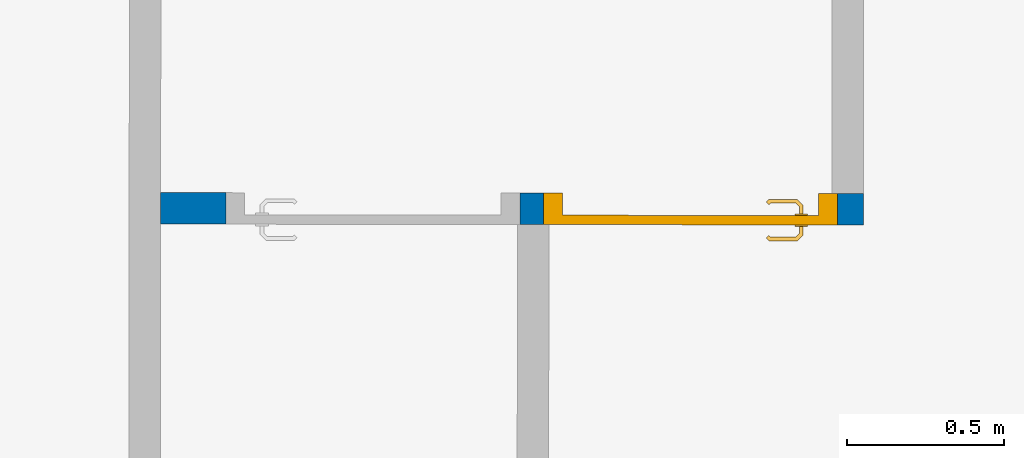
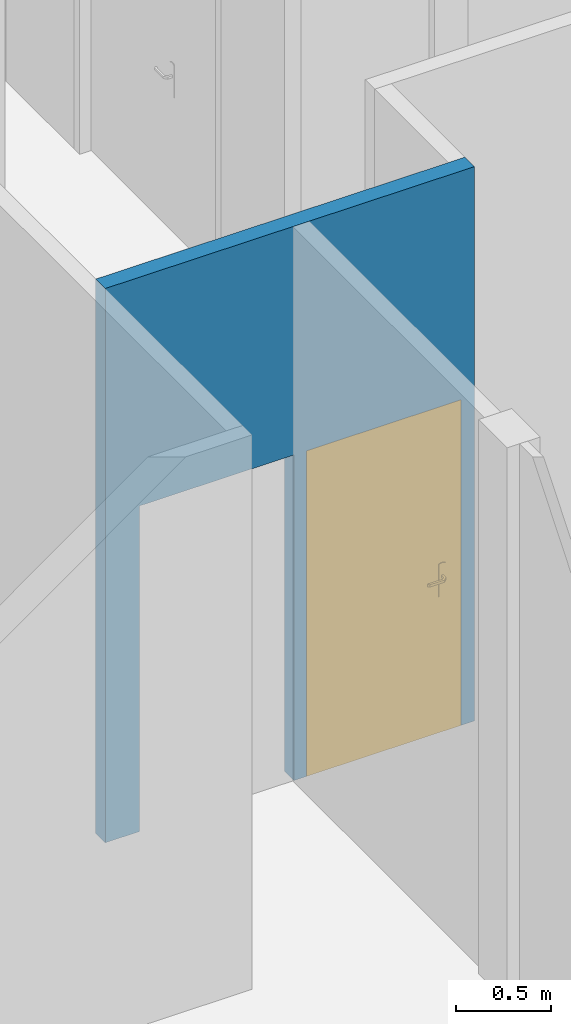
# One storey, part 42 of 101: 1 door, 1 wall, 2 openings.
"""IFC2X3 building model written with IfcOpenShell, lengths in metres."""

import ifcopenshell
import ifcopenshell.guid

model = None  # the IFC model being written
_history = None  # IfcOwnerHistory: only IFC2X3 demands one
_inside = {}  # id of a spatial element -> (the spatial element, [elements in it])
_under = {}  # id of a project, library or spatial element -> (it, [spatial elements below it])
_declared = {}  # id of a project -> (the project, [libraries it declares])
_typed = {}  # id of a type object -> (the type object, [elements of that type])
_made_of = {}  # id of a material, layer set ... -> (it, [elements and type objects made of it])


def new_model(schema):
    """Start an empty IFC model of exactly this schema.

    Asked for "IFC4X3", IfcOpenShell would pick the latest addendum, in which some entities
    have other attributes; the version numbers below select the first issue.
    IFC2X3 requires an IfcOwnerHistory on every rooted entity: one is made here for all.
    """
    global model, _history
    if schema == "IFC4X3":
        model = ifcopenshell.file(schema_version=(4, 3, 0, 0))
    else:
        model = ifcopenshell.file(schema=schema)
    _inside.clear()
    _under.clear()
    _declared.clear()
    _typed.clear()
    _made_of.clear()
    _history = None
    if model.schema == "IFC2X3":
        org = make("IfcOrganization", Name="unknown")
        user = make(
            "IfcPersonAndOrganization",
            ThePerson=make("IfcPerson", FamilyName="unknown"),
            TheOrganization=org,
        )
        app = make(
            "IfcApplication",
            ApplicationDeveloper=org,
            Version="unknown",
            ApplicationFullName="unknown",
            ApplicationIdentifier="unknown",
        )
        _history = make(
            "IfcOwnerHistory",
            OwningUser=user,
            OwningApplication=app,
            ChangeAction="ADDED",
            CreationDate=0,
        )
    return model


def make(cls, **values):
    """One entity of the class cls with the attributes given. An attribute that is None is left unset."""
    return model.create_entity(
        cls, **{name: value for name, value in values.items() if value is not None}
    )


def entity(cls, *values):
    """Any entity or typed value of the class cls, its attributes in the order of the schema. None: left unset."""
    e = model.create_entity(cls)
    for i, value in enumerate(values):
        if value is not None:
            e[i] = value
    return e


def rooted(cls, **values):
    """An entity with a GlobalId (a new one), such as an element, a storey or a relation."""
    return make(cls, GlobalId=ifcopenshell.guid.new(), OwnerHistory=_history, **values)


def si_unit(unit_type, name, prefix=None):
    """IfcSIUnit, for example si_unit("LENGTHUNIT", "METRE", prefix="MILLI")."""
    return make("IfcSIUnit", UnitType=unit_type, Prefix=prefix, Name=name)


def converted_unit(unit_type, name, factor, base, dimensions=None, offset=None):
    """IfcConversionBasedUnit, such as the inch: factor (a typed value) times the base unit."""
    return make(
        "IfcConversionBasedUnit"
        if offset is None
        else "IfcConversionBasedUnitWithOffset",
        ConversionOffset=offset,
        Dimensions=None
        if dimensions is None
        else entity("IfcDimensionalExponents", *dimensions),
        UnitType=unit_type,
        Name=name,
        ConversionFactor=make(
            "IfcMeasureWithUnit", ValueComponent=factor, UnitComponent=base
        ),
    )


def derived_unit(unit_type, elements):
    """IfcDerivedUnit: a product of units, each with its exponent."""
    return make(
        "IfcDerivedUnit",
        Elements=[
            make("IfcDerivedUnitElement", Unit=unit, Exponent=power)
            for unit, power in elements
        ],
        UnitType=unit_type,
    )


def assignment(units):
    """IfcUnitAssignment: the units of a project."""
    return None if units is None else make("IfcUnitAssignment", Units=units)


def point(xyz):
    """IfcCartesianPoint."""
    return None if xyz is None else make("IfcCartesianPoint", Coordinates=xyz)


def direction(xyz):
    """IfcDirection."""
    return None if xyz is None else make("IfcDirection", DirectionRatios=xyz)


def frame(location, z_axis=None, x_axis=None):
    """IfcAxis2Placement3D, a coordinate frame: its origin and axes. An axis left out is left unset."""
    return make(
        "IfcAxis2Placement3D",
        Location=point(location),
        Axis=direction(z_axis),
        RefDirection=direction(x_axis),
    )


def frame_2d(location, x_axis=None):
    """IfcAxis2Placement2D, a coordinate frame in the plane: its origin and x axis."""
    return make(
        "IfcAxis2Placement2D", Location=point(location), RefDirection=direction(x_axis)
    )


def origin():
    """The frame at (0, 0, 0) with its axes left unset."""
    return frame((0.0, 0.0, 0.0))


def place(relative_to, where):
    """IfcLocalPlacement: puts the frame where relative to a parent placement (None: the world)."""
    return make(
        "IfcLocalPlacement", PlacementRelTo=relative_to, RelativePlacement=where
    )


def context(
    kind, dimensions, precision=None, world=None, true_north=None, identifier=None
):
    """IfcGeometricRepresentationContext, for example the 3D "Model" context."""
    return make(
        "IfcGeometricRepresentationContext",
        ContextIdentifier=identifier,
        ContextType=kind,
        CoordinateSpaceDimension=dimensions,
        Precision=precision,
        WorldCoordinateSystem=world,
        TrueNorth=true_north,
    )


def subcontext(parent, identifier, kind, view, scale=None):
    """IfcGeometricRepresentationSubContext, for example "Body" below "Model"."""
    return make(
        "IfcGeometricRepresentationSubContext",
        ContextIdentifier=identifier,
        ContextType=kind,
        ParentContext=parent,
        TargetScale=scale,
        TargetView=view,
    )


def project(units=None, contexts=None):
    """IfcProject with its units and contexts."""
    return rooted(
        "IfcProject",
        Name="project",
        RepresentationContexts=contexts,
        UnitsInContext=assignment(units),
    )


def spatial(cls, under=None, at=None, **own):
    """A site, building, storey or space (cls), placed at a placement, below another one or the project."""
    s = rooted(cls, ObjectPlacement=at, **own)
    if under is not None:
        _under.setdefault(under.id(), (under, []))[1].append(s)
    return s


def profile(cls, at=None, kind="AREA", **sizes):
    """A parametric profile (cls). Its sizes go by their IFC names, for example OverallWidth=200.0."""
    return make(cls, ProfileType=kind, Position=at, **sizes)


def rectangle(**sizes):
    """IfcRectangleProfileDef."""
    return profile("IfcRectangleProfileDef", **sizes)


def extrude(swept, where, along, depth):
    """IfcExtrudedAreaSolid: the profile swept, set in the frame where, extruded along a direction by depth."""
    return make(
        "IfcExtrudedAreaSolid",
        SweptArea=swept,
        Position=where,
        ExtrudedDirection=direction(along),
        Depth=depth,
    )


def faces_of(points, faces, orient=None, outer=None):
    """IfcFace entities. A face is a list of loops; a loop is a list of indices into points, from 0.

    orient and outer hold one flag for each loop. By default every Orientation is true, the
    first loop of a face is its IfcFaceOuterBound and the others are IfcFaceBound.
    """
    made = []
    for i, loops in enumerate(faces):
        bounds = []
        for j, loop in enumerate(loops):
            is_outer = j == 0 if outer is None else outer[i][j]
            bounds.append(
                make(
                    "IfcFaceOuterBound" if is_outer else "IfcFaceBound",
                    Bound=make("IfcPolyLoop", Polygon=[points[k] for k in loop]),
                    Orientation=True if orient is None else orient[i][j],
                )
            )
        made.append(make("IfcFace", Bounds=bounds))
    return made


def faceted_brep(points, faces, orient=None, outer=None, voids=None):
    """IfcFacetedBrep: a solid bounded by flat faces; with voids (closed shells), ...WithVoids."""
    shared = [point(p) for p in points]
    hull = make("IfcClosedShell", CfsFaces=faces_of(shared, faces, orient, outer))
    if voids is None:
        return make("IfcFacetedBrep", Outer=hull)
    return make(
        "IfcFacetedBrepWithVoids",
        Outer=hull,
        Voids=[
            make(cls, CfsFaces=faces_of(shared, fs, o, b)) for cls, fs, o, b in voids
        ],
    )


def shape(context_of_items, identifier, shape_type, items):
    """IfcShapeRepresentation: the items that make up one representation, for example the "Body"."""
    return make(
        "IfcShapeRepresentation",
        ContextOfItems=context_of_items,
        RepresentationIdentifier=identifier,
        RepresentationType=shape_type,
        Items=items,
    )


def source(mapping_origin, context_of_items, identifier, shape_type, items):
    """IfcRepresentationMap: a shape defined once, which mapped items show again and again."""
    return make(
        "IfcRepresentationMap",
        MappingOrigin=mapping_origin,
        MappedRepresentation=shape(context_of_items, identifier, shape_type, items),
    )


def transform(
    local_origin,
    x_axis=None,
    y_axis=None,
    z_axis=None,
    scale=None,
    scale2=None,
    scale3=None,
    uniform=True,
):
    """IfcCartesianTransformationOperator3D, or its non-uniform kind. x_axis, y_axis, z_axis: its Axis1, 2, 3."""
    if uniform:
        return make(
            "IfcCartesianTransformationOperator3D",
            Axis1=direction(x_axis),
            Axis2=direction(y_axis),
            LocalOrigin=point(local_origin),
            Scale=scale,
            Axis3=direction(z_axis),
        )
    return make(
        "IfcCartesianTransformationOperator3DnonUniform",
        Axis1=direction(x_axis),
        Axis2=direction(y_axis),
        LocalOrigin=point(local_origin),
        Scale=scale,
        Axis3=direction(z_axis),
        Scale2=scale2,
        Scale3=scale3,
    )


def mapped(mapping_source, mapping_target):
    """IfcMappedItem: shows the shape of a source again, moved by a transform."""
    return make(
        "IfcMappedItem", MappingSource=mapping_source, MappingTarget=mapping_target
    )


def material(Name=None, Category=None):
    """IfcMaterial."""
    return make("IfcMaterial", Name=Name, Category=Category)


def material_list(materials):
    """IfcMaterialList."""
    return make("IfcMaterialList", Materials=materials)


def layer(
    of_material, thickness, ventilated=None, Name=None, Category=None, Priority=None
):
    """IfcMaterialLayer: one layer of a wall or slab, of a material (None: an air gap)."""
    return make(
        "IfcMaterialLayer",
        Material=of_material,
        LayerThickness=thickness,
        IsVentilated=ventilated,
        Name=Name,
        Category=Category,
        Priority=Priority,
    )


def layer_set(layers, Name=None):
    """IfcMaterialLayerSet."""
    return make("IfcMaterialLayerSet", MaterialLayers=layers, LayerSetName=Name)


def layer_usage(for_layer_set, set_direction, sense, offset, extent=None):
    """IfcMaterialLayerSetUsage: how a layer set lies in its element."""
    return make(
        "IfcMaterialLayerSetUsage",
        ForLayerSet=for_layer_set,
        LayerSetDirection=set_direction,
        DirectionSense=sense,
        OffsetFromReferenceLine=offset,
        ReferenceExtent=extent,
    )


def made_of(thing, what):
    """Note that an element or type object is made of a material, layer set ...; save() writes the relation."""
    if what is not None:
        _made_of.setdefault(what.id(), (what, []))[1].append(thing)
    return thing


def type_object(cls, material=None, **own):
    """A type object (cls), such as IfcWallType, which elements share."""
    return made_of(rooted(cls, **own), material)


def type_shapes(of_type, sources):
    """Give a type object the sources (RepresentationMaps) that its elements show as mapped items."""
    of_type.RepresentationMaps = sources


def element(
    cls,
    number,
    at=None,
    inside=None,
    cuts=None,
    type_object=None,
    material=None,
    context=None,
    identifier="Body",
    shape_type=None,
    held_by="IfcProductDefinitionShape",
    body=None,
    shapes=None,
    **own,
):
    """One element of the class cls, such as IfcWall. Its Tag is "e" and its number.

    at: its placement. inside: the storey or other place that contains it. cuts: it is an
    opening in that element (IfcRelVoidsElement). A single representation is given by context,
    identifier, shape_type and body (its items); several are given by shapes. held_by: the class
    of the entity that holds the representations. save() writes the other relations.
    """
    e = rooted(cls, Tag="e%d" % number, ObjectPlacement=at, **own)
    if body is not None:
        shapes = [shape(context, identifier, shape_type, body)]
    if shapes is not None:
        e.Representation = make(held_by, Representations=shapes)
    if inside is not None:
        _inside.setdefault(inside.id(), (inside, []))[1].append(e)
    if cuts is not None:
        rooted(
            "IfcRelVoidsElement", RelatingBuildingElement=cuts, RelatedOpeningElement=e
        )
    if type_object is not None:
        _typed.setdefault(type_object.id(), (type_object, []))[1].append(e)
    return made_of(e, material)


def fill(opening, filler):
    """IfcRelFillsElement: the door or window that sits in an opening."""
    return rooted(
        "IfcRelFillsElement",
        RelatingOpeningElement=opening,
        RelatedBuildingElement=filler,
    )


def aggregate(whole, parts):
    """IfcRelAggregates: a whole, such as a stair, and the parts it consists of."""
    return rooted("IfcRelAggregates", RelatingObject=whole, RelatedObjects=parts)


def save(model, path):
    """Write the relations noted so far, then the file.

    IfcRelAggregates (storeys below a building ...), IfcRelContainedInSpatialStructure (elements
    in a storey), IfcRelDefinesByType, IfcRelAssociatesMaterial and IfcRelDeclares: one each for
    every whole, place, type object, material and project.
    """
    for whole, parts in _under.values():
        aggregate(whole, parts)
    for where, things in _inside.values():
        rooted(
            "IfcRelContainedInSpatialStructure",
            RelatedElements=things,
            RelatingStructure=where,
        )
    for kind, things in _typed.values():
        rooted("IfcRelDefinesByType", RelatedObjects=things, RelatingType=kind)
    for what, things in _made_of.values():
        rooted("IfcRelAssociatesMaterial", RelatedObjects=things, RelatingMaterial=what)
    for by, libraries in _declared.values():
        rooted("IfcRelDeclares", RelatingContext=by, RelatedDefinitions=libraries)
    model.write(path)


model = new_model("IFC2X3")

# Units and contexts
model_context = context("Model", 3, precision=1e-05, world=origin(), true_north=direction((6.123233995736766e-17, 1.0)))
body_context = subcontext(model_context, "Body", "Model", "MODEL_VIEW")
ifc_project = project(units=[si_unit("LENGTHUNIT", "METRE"), si_unit("AREAUNIT", "SQUARE_METRE"), converted_unit("PLANEANGLEUNIT", "DEGREE", entity("IfcPlaneAngleMeasure", 0.017453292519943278), si_unit("PLANEANGLEUNIT", "RADIAN"), dimensions=[0, 0, 0, 0, 0, 0, 0]), derived_unit("THERMALTRANSMITTANCEUNIT", [(si_unit("MASSUNIT", "GRAM", prefix="KILO"), 1), (si_unit("THERMODYNAMICTEMPERATUREUNIT", "KELVIN"), -1), (si_unit("TIMEUNIT", "SECOND"), -3)])], contexts=[model_context])

# Site, building, storey
site_placement = place(None, frame((1253.6752467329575, 2072.143113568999, 91.49999999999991), z_axis=(0.0, 0.0, 1.0), x_axis=(0.7237211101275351, 0.6900925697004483, 0.0)))
site = spatial("IfcSite", under=ifc_project, at=site_placement, Name="Surface", CompositionType="ELEMENT")
building_placement = place(site_placement, origin())
building = spatial("IfcBuilding", under=site, at=building_placement, CompositionType="ELEMENT")
storey_placement = place(building_placement, origin())
storey = spatial("IfcBuildingStorey", under=building, at=storey_placement, Name="0- Rdc", CompositionType="ELEMENT", Elevation=-5.764692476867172e-13)

# Wall, openings, door
ifc_material_1 = material(Name="OMD_Béton blanc")
ifc_layer = layer(ifc_material_1, 0.1)
ifc_layer_set = layer_set([ifc_layer], Name="Mur de base:MUR 10")
ifc_layer_usage = layer_usage(ifc_layer_set, "AXIS2", "NEGATIVE", 0.05)
wall_type = type_object("IfcWallType", Name="Mur de base:MUR 10", PredefinedType="STANDARD", material=ifc_layer_set)
wall_placement = place(storey_placement, frame((152.6208609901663, 3.9575793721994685, 0.0), z_axis=(0.0, 0.0, 1.0), x_axis=(-0.7228702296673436, 0.6909838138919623, 0.0)))
wall = element("IfcWallStandardCase", 1, at=wall_placement, inside=storey, type_object=wall_type, material=ifc_layer_usage, Name="Mur de base:MUR 10", ObjectType="Mur de base:MUR 10", context=body_context, shape_type="SweptSolid", body=[
    extrude(rectangle(XDim=2.235000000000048, YDim=0.10000000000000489, at=frame_2d((1.117500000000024, -1.0408340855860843e-15), x_axis=(-1.0, 0.0))), origin(), (0.0, 0.0, 1.0), 3.5499999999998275),
])
opening_1_placement = place(wall_placement, frame((0.08250000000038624, -0.05000000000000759, 0.0)))
opening_1 = element("IfcOpeningElement", 2, at=opening_1_placement, cuts=wall, Name="OMD_Porte 1V tunnel:80x204:1", ObjectType="Opening", context=body_context, shape_type="SweptSolid", body=[
    extrude(rectangle(XDim=2.0850000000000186, YDim=0.9349999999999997, at=frame_2d((1.0425000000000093, 0.4675000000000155), x_axis=(1.0, 0.0))), frame((0.0, 0.0, 0.0), z_axis=(0.0, 1.0, 0.0), x_axis=(0.0, 0.0, 1.0)), (0.0, 0.0, 1.0), 0.1),
])
opening_2_placement = place(wall_placement, frame((1.0925000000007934, -0.050000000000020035, 0.0)))
element("IfcOpeningElement", 3, at=opening_2_placement, cuts=wall, Name="OMD_Porte 1V tunnel:80x204:1", ObjectType="Opening", context=body_context, shape_type="SweptSolid", body=[
    extrude(rectangle(XDim=2.0850000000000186, YDim=0.9349999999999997, at=frame_2d((1.0425000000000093, 0.46749999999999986), x_axis=(1.0, 0.0))), frame((0.0, 0.0, 0.0), z_axis=(0.0, 1.0, 0.0), x_axis=(0.0, 0.0, 1.0)), (0.0, 0.0, 1.0), 0.1),
])
ifc_material_2 = material(Name="Porte - Poignée")
ifc_material_3 = material(Name="OMD_Peinture mur")
ifc_material_4 = material(Name="OMD_Bois")
ifc_material_list = material_list([ifc_material_2, ifc_material_3, ifc_material_4])
door_style = type_object("IfcDoorStyle", Name="OMD_Porte 1V tunnel:80x204", ConstructionType="NOTDEFINED", OperationType="NOTDEFINED", ParameterTakesPrecedence=False, Sizeable=False, material=ifc_material_list)
shared_shape = source(origin(), body_context, "Body", "Brep", [
    faceted_brep([(0.8220252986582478, 0.03500000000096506, 1.0077804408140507), (0.8179747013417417, 0.03500000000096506, 1.007780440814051), (0.8139999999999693, 0.03500000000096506, 1.00699999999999), (0.8139999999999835, 0.03500000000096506, 0.9930000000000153), (0.8179747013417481, 0.03500000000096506, 0.9922195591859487), (0.8220252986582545, 0.03500000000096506, 0.9922195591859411), (0.8260000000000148, 0.03500000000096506, 0.9929999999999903), (0.826000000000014, 0.03500000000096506, 1.006999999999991), (0.8139999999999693, 0.05748520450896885, 1.00699999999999), (0.8139999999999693, 0.05748520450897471, 0.9930000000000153), (0.8179747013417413, 0.059131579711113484, 1.007780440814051), (0.8220252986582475, 0.060809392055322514, 1.0077804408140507), (0.8058389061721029, 0.07699578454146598, 1.0077804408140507), (0.8041610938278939, 0.07294518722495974, 1.007780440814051), (0.7207931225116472, 0.07294518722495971, 1.0077804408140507), (0.7191153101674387, 0.07699578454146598, 1.0077804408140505), (0.7114510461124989, 0.06933152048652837, 1.0077804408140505), (0.714315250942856, 0.0664673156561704, 1.0077804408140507), (0.8260000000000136, 0.062455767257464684, 1.006999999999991), (0.8260000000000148, 0.062455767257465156, 0.9929999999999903), (0.8220252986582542, 0.06080939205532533, 0.9922195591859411), (0.8179747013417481, 0.05913157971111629, 0.9922195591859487), (0.8041610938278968, 0.07294518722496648, 0.9922195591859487), (0.8058389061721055, 0.07699578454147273, 0.9922195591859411), (0.7191153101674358, 0.07699578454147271, 0.9922195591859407), (0.7207931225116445, 0.07294518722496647, 0.9922195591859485), (0.7143152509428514, 0.06646731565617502, 0.9922195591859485), (0.7114510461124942, 0.06933152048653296, 0.9922195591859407), (0.8025147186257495, 0.06897048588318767, 1.00699999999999), (0.8025147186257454, 0.06897048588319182, 0.9930000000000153), (0.8074852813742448, 0.08097048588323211, 1.006999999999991), (0.8074852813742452, 0.08097048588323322, 0.9929999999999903), (0.7624771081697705, 0.06897048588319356, 1.0069999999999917), (0.7224394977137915, 0.06897048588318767, 1.0069999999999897), (0.7224394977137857, 0.0689704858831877, 0.9930000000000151), (0.7624771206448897, 0.06897048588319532, 0.9930000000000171), (0.7624771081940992, 0.07512492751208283, 1.0078781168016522), (0.7573994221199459, 0.08097048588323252, 1.0069999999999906), (0.7174689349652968, 0.08097048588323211, 1.0069999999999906), (0.7675547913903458, 0.08097048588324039, 0.9929999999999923), (0.7174689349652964, 0.08097048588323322, 0.99299999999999), (0.762477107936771, 0.07512492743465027, 0.9921218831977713), (0.7086405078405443, 0.07214205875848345, 1.0069999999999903), (0.7086405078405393, 0.07214205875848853, 0.9929999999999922), (0.7171257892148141, 0.06365677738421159, 0.9930000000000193), (0.71712578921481, 0.06365677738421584, 1.0069999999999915)], [[[0, 1, 2, 3, 4, 5, 6, 7]], [[8, 9, 3, 2]], [[1, 10, 8, 2]], [[1, 0, 11, 12, 13, 10]], [[14, 15, 16, 17]], [[7, 18, 11, 0]], [[18, 7, 6, 19]], [[6, 5, 20, 19]], [[5, 4, 21, 22, 23, 20]], [[24, 25, 26, 27]], [[4, 3, 9, 21]], [[28, 29, 9, 8]], [[8, 10, 13, 28]], [[18, 30, 12, 11]], [[31, 30, 18, 19]], [[19, 20, 23, 31]], [[21, 9, 29, 22]], [[29, 28, 32, 33, 34, 35]], [[36, 32, 13]], [[37, 38, 15]], [[37, 12, 30]], [[36, 12, 37]], [[14, 32, 36]], [[36, 15, 14]], [[28, 13, 32]], [[32, 14, 33]], [[12, 36, 13]], [[15, 36, 37]], [[30, 31, 39, 40, 38, 37]], [[23, 41, 39]], [[24, 39, 41]], [[39, 31, 23]], [[39, 24, 40]], [[22, 35, 41]], [[41, 23, 22]], [[41, 35, 25]], [[35, 22, 29]], [[34, 25, 35]], [[24, 41, 25]], [[17, 16, 42, 43, 27, 26, 44, 45]], [[45, 44, 34, 33]], [[33, 14, 17, 45]], [[15, 38, 42, 16]], [[43, 42, 38, 40]], [[24, 27, 43, 40]], [[34, 44, 26, 25]]]),
    faceted_brep([(0.817974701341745, -0.004999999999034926, 1.007780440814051), (0.8220252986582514, -0.004999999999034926, 1.0077804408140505), (0.8260000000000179, -0.004999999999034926, 1.0069999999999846), (0.8260000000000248, -0.004999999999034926, 0.9929999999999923), (0.8220252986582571, -0.004999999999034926, 0.992219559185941), (0.817974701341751, -0.004999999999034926, 0.9922195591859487), (0.8139999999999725, -0.004999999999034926, 0.9930000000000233), (0.8139999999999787, -0.004999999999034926, 1.006999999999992), (0.8220252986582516, -0.03100457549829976, 1.0077804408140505), (0.8260000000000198, -0.03265095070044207, 1.0069999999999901), (0.8179747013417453, -0.02932676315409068, 1.007780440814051), (0.8042986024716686, -0.04300286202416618, 1.007780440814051), (0.8059764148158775, -0.04705345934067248, 1.0077804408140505), (0.7191424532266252, -0.04705345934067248, 1.0077804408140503), (0.7208202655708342, -0.04300286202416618, 1.0077804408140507), (0.714342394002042, -0.03652499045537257, 1.0077804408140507), (0.7114781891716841, -0.039389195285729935, 1.0077804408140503), (0.813999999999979, -0.02768038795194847, 1.006999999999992), (0.8139999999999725, -0.02768038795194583, 0.9930000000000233), (0.817974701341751, -0.029326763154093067, 0.9922195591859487), (0.8220252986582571, -0.031004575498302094, 0.992219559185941), (0.8059764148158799, -0.0470534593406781, 0.992219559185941), (0.804298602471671, -0.04300286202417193, 0.9922195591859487), (0.7208202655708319, -0.04300286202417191, 0.9922195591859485), (0.7191424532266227, -0.047053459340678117, 0.9922195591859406), (0.71147818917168, -0.03938919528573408, 0.9922195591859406), (0.7143423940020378, -0.036524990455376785, 0.9922195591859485), (0.8260000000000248, -0.032650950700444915, 0.9929999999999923), (0.807622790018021, -0.051028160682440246, 1.0069999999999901), (0.8026522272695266, -0.03902816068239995, 1.006999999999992), (0.8026522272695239, -0.03902816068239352, 0.9930000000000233), (0.8076227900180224, -0.05102816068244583, 0.9929999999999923), (0.762559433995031, -0.0451828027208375, 1.0078781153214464), (0.7676923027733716, -0.05102816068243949, 1.0069999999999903), (0.7174960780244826, -0.05102816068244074, 1.00699999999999), (0.7625594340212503, -0.03902816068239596, 1.0069999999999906), (0.7224666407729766, -0.039028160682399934, 1.0069999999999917), (0.7625594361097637, -0.03902816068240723, 0.9930000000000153), (0.7224666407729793, -0.03902816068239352, 0.9930000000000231), (0.7625594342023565, -0.04518280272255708, 0.9921218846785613), (0.7574265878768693, -0.051028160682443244, 0.9929999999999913), (0.7174960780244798, -0.05102816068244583, 0.9929999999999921), (0.7171529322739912, -0.033714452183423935, 0.9930000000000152), (0.7086676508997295, -0.04219973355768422, 0.9929999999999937), (0.7086676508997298, -0.04219973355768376, 1.0069999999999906), (0.717152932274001, -0.03371445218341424, 1.0069999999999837)], [[[0, 1, 2, 3, 4, 5, 6, 7]], [[2, 1, 8, 9]], [[1, 0, 10, 11, 12, 8]], [[13, 14, 15, 16]], [[0, 7, 17, 10]], [[18, 17, 7, 6]], [[5, 19, 18, 6]], [[5, 4, 20, 21, 22, 19]], [[23, 24, 25, 26]], [[3, 27, 20, 4]], [[9, 27, 3, 2]], [[9, 8, 12, 28]], [[10, 17, 29, 11]], [[30, 29, 17, 18]], [[18, 19, 22, 30]], [[20, 27, 31, 21]], [[28, 31, 27, 9]], [[12, 32, 33]], [[13, 33, 32]], [[33, 28, 12]], [[33, 13, 34]], [[11, 35, 32]], [[32, 12, 11]], [[32, 35, 14]], [[35, 11, 29]], [[36, 14, 35]], [[13, 32, 14]], [[29, 30, 37, 38, 36, 35]], [[39, 37, 22]], [[40, 41, 24]], [[40, 21, 31]], [[39, 21, 40]], [[23, 37, 39]], [[39, 24, 23]], [[30, 22, 37]], [[37, 23, 38]], [[21, 39, 22]], [[24, 39, 40]], [[31, 28, 33, 34, 41, 40]], [[42, 26, 25, 43, 44, 16, 15, 45]], [[13, 16, 44, 34]], [[36, 45, 15, 14]], [[42, 45, 36, 38]], [[38, 23, 26, 42]], [[24, 41, 43, 25]], [[44, 43, 41, 34]]]),
    faceted_brep([(0.8199999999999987, 0.030000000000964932, 0.8646410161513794), (0.8303527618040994, 0.03000000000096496, 0.866003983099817), (0.8399999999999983, 0.030000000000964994, 0.8700000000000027), (0.8399999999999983, 0.030000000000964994, 1.0800000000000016), (0.8303527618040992, 0.03000000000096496, 1.0839960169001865), (0.8199999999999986, 0.030000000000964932, 1.0853589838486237), (0.809647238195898, 0.030000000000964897, 1.0839960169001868), (0.7999999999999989, 0.030000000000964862, 1.0800000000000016), (0.7999999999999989, 0.030000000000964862, 0.8700000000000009), (0.8096472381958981, 0.030000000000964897, 0.8660039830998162), (0.8199999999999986, 0.03500000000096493, 1.0853589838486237), (0.8303527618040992, 0.03500000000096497, 1.0839960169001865), (0.8399999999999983, 0.035000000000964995, 1.0800000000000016), (0.8399999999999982, 0.035000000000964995, 0.8700000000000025), (0.8303527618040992, 0.03500000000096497, 0.866003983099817), (0.8199999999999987, 0.03500000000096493, 0.8646410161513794), (0.8096472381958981, 0.0350000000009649, 0.8660039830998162), (0.7999999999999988, 0.03500000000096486, 0.8700000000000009), (0.7999999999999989, 0.03500000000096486, 1.0800000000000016), (0.809647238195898, 0.0350000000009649, 1.0839960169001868)], [[[0, 1, 2, 3, 4, 5, 6, 7, 8, 9]], [[10, 11, 12, 13, 14, 15, 16, 17, 18, 19]], [[6, 19, 18, 7]], [[5, 10, 19, 6]], [[4, 11, 10, 5]], [[4, 3, 12, 11]], [[12, 3, 2, 13]], [[1, 14, 13, 2]], [[0, 15, 14, 1]], [[9, 16, 15, 0]], [[9, 8, 17, 16]], [[17, 8, 7, 18]]]),
    faceted_brep([(0.819999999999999, -0.004999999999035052, 0.8646410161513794), (0.8303527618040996, -0.0049999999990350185, 0.8660039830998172), (0.8399999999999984, -0.004999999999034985, 0.8700000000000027), (0.8399999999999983, -0.004999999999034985, 1.0800000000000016), (0.8303527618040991, -0.0049999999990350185, 1.0839960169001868), (0.8199999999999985, -0.004999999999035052, 1.0853589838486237), (0.8096472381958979, -0.004999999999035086, 1.0839960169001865), (0.7999999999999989, -0.004999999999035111, 1.0800000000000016), (0.7999999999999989, -0.004999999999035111, 0.8700000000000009), (0.8096472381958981, -0.004999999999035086, 0.8660039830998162), (0.8399999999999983, 0.0, 1.0800000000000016), (0.8399999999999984, 0.0, 0.8700000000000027), (0.8303527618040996, 0.0, 0.8660039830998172), (0.819999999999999, 0.0, 0.8646410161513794), (0.8096472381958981, 0.0, 0.8660039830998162), (0.7999999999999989, 0.0, 0.8700000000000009), (0.7999999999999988, 0.0, 1.0800000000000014), (0.8096472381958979, 0.0, 1.0839960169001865), (0.8199999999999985, 0.0, 1.0853589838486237), (0.8303527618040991, 0.0, 1.0839960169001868)], [[[0, 1, 2, 3, 4, 5, 6, 7, 8, 9]], [[10, 11, 12, 13, 14, 15, 16, 17, 18, 19]], [[1, 12, 11, 2]], [[0, 13, 12, 1]], [[9, 14, 13, 0]], [[9, 8, 15, 14]], [[15, 8, 7, 16]], [[6, 17, 16, 7]], [[5, 18, 17, 6]], [[4, 19, 18, 5]], [[4, 3, 10, 19]], [[10, 3, 2, 11]]]),
    faceted_brep([(0.89, 0.030000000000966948, 0.0), (0.89, 0.0, 0.0), (0.04500000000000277, 0.0, 0.0), (0.04500000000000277, 0.030000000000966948, 0.0), (0.89, 0.030000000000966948, 2.04), (0.89, 0.0, 2.04), (0.04500000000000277, 0.0, 2.04), (0.04500000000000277, 0.030000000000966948, 2.04)], [[[0, 1, 2, 3]], [[4, 5, 1, 0]], [[5, 6, 2, 1]], [[6, 7, 3, 2]], [[7, 4, 0, 3]], [[4, 7, 6, 5]]]),
    faceted_brep([(0.9350000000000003, 0.0, 0.0), (0.89, 0.0, 0.0), (0.8900000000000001, 0.03000000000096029, 0.0), (0.8750000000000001, 0.030000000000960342, 0.0), (0.8750000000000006, 0.10000000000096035, 0.0), (0.9350000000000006, 0.10000000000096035, 0.0), (0.9350000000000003, 0.0, 2.085), (0.0, 0.0, 2.085), (0.0, 0.0, 0.0), (0.04500000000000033, 0.0, 0.0), (0.04500000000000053, 0.0, 2.04), (0.8899999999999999, 0.0, 2.0399999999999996), (0.89, 0.030000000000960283, 2.0399999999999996), (0.0450000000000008, 0.03000000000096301, 2.0399999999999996), (0.0450000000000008, 0.030000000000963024, 0.0), (0.060000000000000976, 0.030000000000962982, 0.0), (0.060000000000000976, 0.03000000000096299, 2.0249999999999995), (0.8750000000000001, 0.03000000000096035, 2.025), (0.8750000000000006, 0.10000000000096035, 2.0250000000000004), (0.060000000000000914, 0.10000000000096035, 2.025), (0.060000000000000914, 0.10000000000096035, 0.0), (0.0, 0.10000000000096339, 0.0), (0.0, 0.10000000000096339, 2.085), (0.9350000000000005, 0.10000000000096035, 2.085)], [[[0, 1, 2, 3, 4, 5]], [[1, 0, 6, 7, 8, 9, 10, 11]], [[2, 1, 11, 12]], [[3, 2, 12, 13, 14, 15, 16, 17]], [[4, 3, 17, 18]], [[5, 4, 18, 19, 20, 21, 22, 23]], [[0, 5, 23, 6]], [[7, 22, 21, 8]], [[8, 21, 20, 15, 14, 9]], [[13, 10, 9, 14]], [[19, 16, 15, 20]], [[12, 11, 10, 13]], [[18, 17, 16, 19]], [[6, 23, 22, 7]]]),
])
type_shapes(door_style, [shared_shape])
door_placement = place(opening_1_placement, frame((0.9350000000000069, 0.10000000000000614, 0.0), z_axis=(0.0, 0.0, 1.0), x_axis=(-1.0, 0.0, 0.0)))
door = element("IfcDoor", 4, at=door_placement, inside=storey, type_object=door_style, material=ifc_material_list, Name="OMD_Porte 1V tunnel:80x204", ObjectType="OMD_Porte 1V tunnel:80x204", OverallHeight=2.0850000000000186, OverallWidth=0.9349999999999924, context=body_context, shape_type="MappedRepresentation", body=[
    mapped(shared_shape, transform((0.0, 0.0, 0.0), scale=1.0)),
])
fill(opening_1, door)

save(model, "model.ifc")
